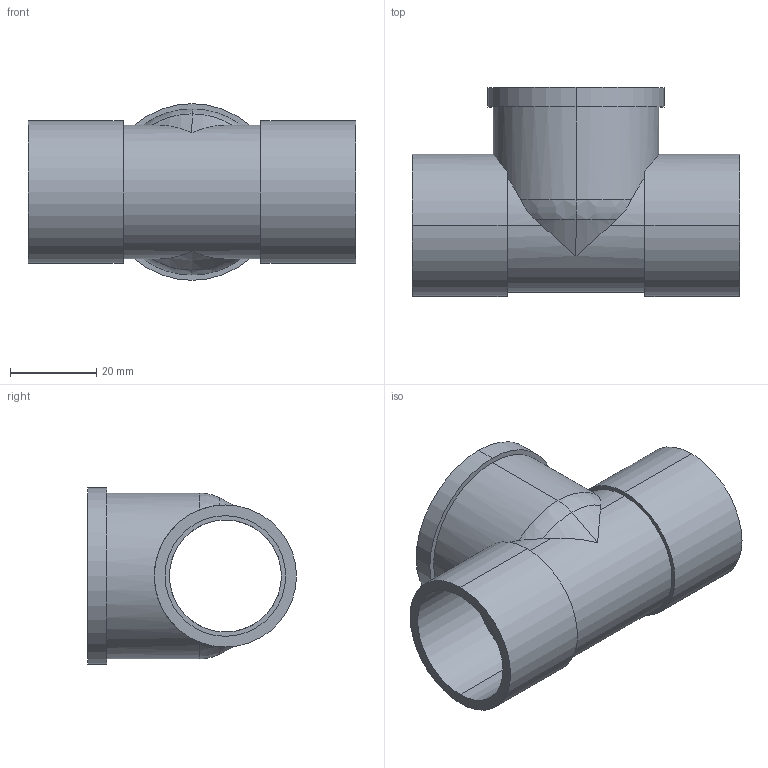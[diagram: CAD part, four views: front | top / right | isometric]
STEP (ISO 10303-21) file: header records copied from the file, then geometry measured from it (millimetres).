
FILE_DESCRIPTION (( 'STEP AP203' ), '1' );
FILE_NAME ('28x1.STEP', '2014-08-27T00:38:25', ( 'Administrators' ), ( 'JUJUMAO' ), 'SwSTEP 2.0', 'SolidWorks 2008', '' );
FILE_SCHEMA (( 'CONFIG_CONTROL_DESIGN' ));
Length unit declared in the file: millimetre
Products named in the file (1): 28x1
Bounding box: 76 x 48.5 x 41 mm (x, y, z)
Volume: 24914.8 mm3; surface area: 19948 mm2
Topology: 1 solids, 1 shells, 72 faces, 198 edges, 131 vertices
Faces by surface type: cylinder 43, cone 9, plane 9, torus 7, sphere 2, bspline 2
Entity records: 3847 total; most frequent: CARTESIAN_POINT 2070, ORIENTED_EDGE 396, DIRECTION 326, EDGE_CURVE 198, AXIS2_PLACEMENT_3D 138, VERTEX_POINT 131, EDGE_LOOP 79, ADVANCED_FACE 72
